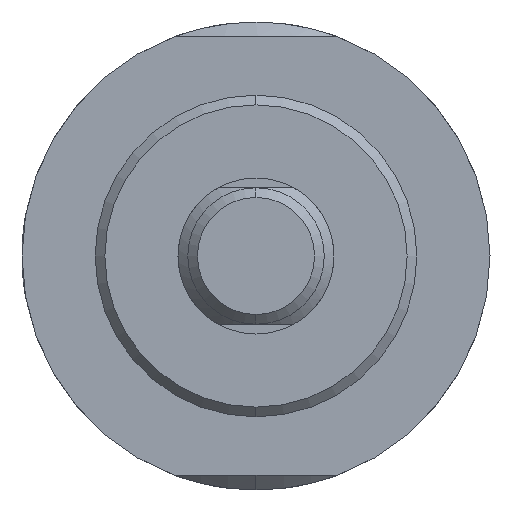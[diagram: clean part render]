
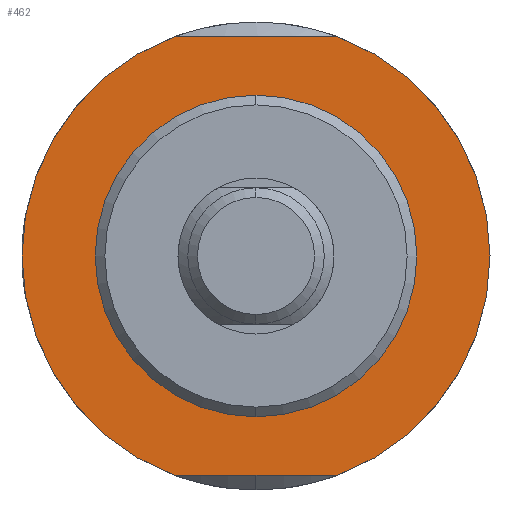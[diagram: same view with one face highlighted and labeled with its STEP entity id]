
A CAD part, left-side view. The second image highlights one B-rep face of the part: STEP entity #462.
In plain terms, the highlighted planar face has unit normal (-1, 0, 0).
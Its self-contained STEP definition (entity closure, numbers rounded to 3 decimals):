
#27 = VERTEX_POINT ( 'NONE', #1291 ) ;
#154 = CARTESIAN_POINT ( 'NONE',  ( 50., 8.352, 22.5 ) ) ;
#163 = EDGE_LOOP ( 'NONE', ( #1357, #1812 ) ) ;
#191 = EDGE_CURVE ( 'NONE', #27, #1504, #261, .T. ) ;
#196 = VERTEX_POINT ( 'NONE', #1338 ) ;
#240 = FACE_BOUND ( 'NONE', #163, .T. ) ;
#244 = VERTEX_POINT ( 'NONE', #154 ) ;
#258 = VERTEX_POINT ( 'NONE', #706 ) ;
#261 = CIRCLE ( 'NONE', #1742, 16.5 ) ;
#312 = EDGE_CURVE ( 'NONE', #258, #401, #1457, .T. ) ;
#349 = CARTESIAN_POINT ( 'NONE',  ( 50., 0., 0. ) ) ;
#375 = DIRECTION ( 'NONE',  ( 1., 0., 0. ) ) ;
#377 = CARTESIAN_POINT ( 'NONE',  ( 50., 15., -22.5 ) ) ;
#401 = VERTEX_POINT ( 'NONE', #778 ) ;
#453 = CARTESIAN_POINT ( 'NONE',  ( 50., 0., 0. ) ) ;
#462 = ADVANCED_FACE ( 'NONE', ( #240, #1588 ), #1425, .F. ) ;
#513 = CARTESIAN_POINT ( 'NONE',  ( 50., 0., -24. ) ) ;
#541 = DIRECTION ( 'NONE',  ( 0., 0., -1. ) ) ;
#548 = AXIS2_PLACEMENT_3D ( 'NONE', #453, #1432, #1678 ) ;
#657 = DIRECTION ( 'NONE',  ( 0., 0., 1. ) ) ;
#701 = DIRECTION ( 'NONE',  ( 0., 1., 0. ) ) ;
#706 = CARTESIAN_POINT ( 'NONE',  ( 50., -8.352, -22.5 ) ) ;
#711 = AXIS2_PLACEMENT_3D ( 'NONE', #1741, #1528, #1978 ) ;
#720 = AXIS2_PLACEMENT_3D ( 'NONE', #513, #375, #541 ) ;
#746 = ORIENTED_EDGE ( 'NONE', *, *, #312, .F. ) ;
#778 = CARTESIAN_POINT ( 'NONE',  ( 50., 8.352, -22.5 ) ) ;
#794 = DIRECTION ( 'NONE',  ( 0., 0., 1. ) ) ;
#795 = CARTESIAN_POINT ( 'NONE',  ( 50., 0., 16.5 ) ) ;
#881 = DIRECTION ( 'NONE',  ( -1., 0., 0. ) ) ;
#946 = LINE ( 'NONE', #1388, #1835 ) ;
#1053 = VECTOR ( 'NONE', #701, 1000. ) ;
#1155 = EDGE_LOOP ( 'NONE', ( #1966, #746, #1163, #1722 ) ) ;
#1163 = ORIENTED_EDGE ( 'NONE', *, *, #1941, .T. ) ;
#1178 = DIRECTION ( 'NONE',  ( -1., 0., 0. ) ) ;
#1291 = CARTESIAN_POINT ( 'NONE',  ( 50., 0., -16.5 ) ) ;
#1309 = AXIS2_PLACEMENT_3D ( 'NONE', #1539, #881, #657 ) ;
#1338 = CARTESIAN_POINT ( 'NONE',  ( 50., -8.352, 22.5 ) ) ;
#1357 = ORIENTED_EDGE ( 'NONE', *, *, #1712, .F. ) ;
#1388 = CARTESIAN_POINT ( 'NONE',  ( 50., 15., 22.5 ) ) ;
#1425 = PLANE ( 'NONE',  #720 ) ;
#1432 = DIRECTION ( 'NONE',  ( -1., 0., 0. ) ) ;
#1457 = LINE ( 'NONE', #377, #1053 ) ;
#1504 = VERTEX_POINT ( 'NONE', #795 ) ;
#1528 = DIRECTION ( 'NONE',  ( -1., 0., 0. ) ) ;
#1539 = CARTESIAN_POINT ( 'NONE',  ( 50., 0., 0. ) ) ;
#1547 = CIRCLE ( 'NONE', #548, 24. ) ;
#1588 = FACE_OUTER_BOUND ( 'NONE', #1155, .T. ) ;
#1633 = EDGE_CURVE ( 'NONE', #244, #401, #1547, .T. ) ;
#1678 = DIRECTION ( 'NONE',  ( 0., 0., 1. ) ) ;
#1704 = CIRCLE ( 'NONE', #711, 24. ) ;
#1712 = EDGE_CURVE ( 'NONE', #1504, #27, #1939, .T. ) ;
#1722 = ORIENTED_EDGE ( 'NONE', *, *, #1726, .F. ) ;
#1726 = EDGE_CURVE ( 'NONE', #244, #196, #946, .T. ) ;
#1741 = CARTESIAN_POINT ( 'NONE',  ( 50., 0., 0. ) ) ;
#1742 = AXIS2_PLACEMENT_3D ( 'NONE', #349, #1178, #794 ) ;
#1812 = ORIENTED_EDGE ( 'NONE', *, *, #191, .F. ) ;
#1835 = VECTOR ( 'NONE', #1992, 1000. ) ;
#1939 = CIRCLE ( 'NONE', #1309, 16.5 ) ;
#1941 = EDGE_CURVE ( 'NONE', #258, #196, #1704, .T. ) ;
#1966 = ORIENTED_EDGE ( 'NONE', *, *, #1633, .T. ) ;
#1978 = DIRECTION ( 'NONE',  ( 0., 0., 1. ) ) ;
#1992 = DIRECTION ( 'NONE',  ( 0., -1., 0. ) ) ;
